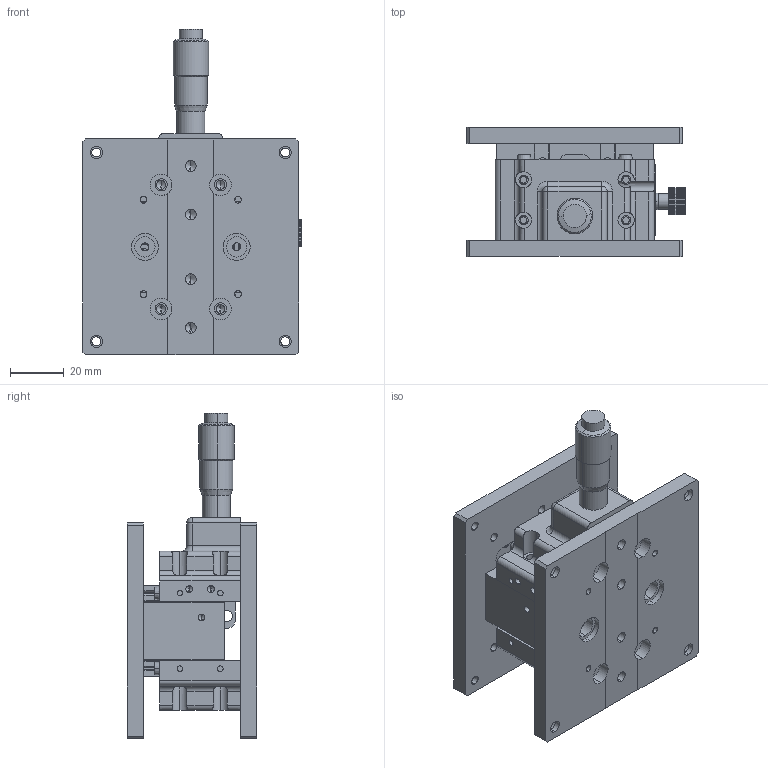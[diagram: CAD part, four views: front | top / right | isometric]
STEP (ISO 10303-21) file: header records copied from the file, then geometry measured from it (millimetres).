
FILE_DESCRIPTION (( 'STEP AP203' ), '1' );
FILE_NAME ('JCHZ-80.STEP', '2019-02-08T06:17:20', ( 'Windows 餌辨濠' ), ( '' ), 'SwSTEP 2.0', 'SolidWorks 2018', '' );
FILE_SCHEMA (( 'CONFIG_CONTROL_DESIGN' ));
Length unit declared in the file: millimetre
Products named in the file (15): JALB-72-R; FC-SJ-3; JCHZ-80; FC-PL-26X18; FB-JCHZ80-BD-01; FC-NB-10; FC-JCHZ-SB-02; FC-PN-4X17; FB-JCHZ60-BD-02-03; JV2-30-5; FB-JCHZ60-BD-02-01; FC-BA-3; FB-JCHZ60-BD-02-02; FB-JCHZ80-BD-03; FB-JCHZ-BK-C-01
Assembly tree (23 placements, depth 2):
  JCHZ-80
    FB-JCHZ60-BD-02-02
    JV2-30-5  x8
    FB-JCHZ60-BD-02-01
    FB-JCHZ60-BD-02-03
    FB-JCHZ-BK-C-01
    FC-BA-3  x2
    FC-PN-4X17
    FC-NB-10
    JALB-72-R
    FC-PL-26X18
    FB-JCHZ80-BD-03
    FB-JCHZ80-BD-01
    FC-SJ-3
    FC-JCHZ-SB-02  x2
Bounding box: 80.9 x 48 x 120.7 mm (x, y, z)
Volume: 160678.2 mm3; surface area: 72625.2 mm2
Topology: 23 solids, 23 shells, 1614 faces, 4216 edges, 2660 vertices
Faces by surface type: plane 775, cylinder 719, cone 106, sphere 12, torus 2
Entity records: 29343 total; most frequent: CARTESIAN_POINT 5268, DIRECTION 4958, ORIENTED_EDGE 4456, EDGE_CURVE 2228, AXIS2_PLACEMENT_3D 1894, VERTEX_POINT 1456, VECTOR 1170, LINE 1170
